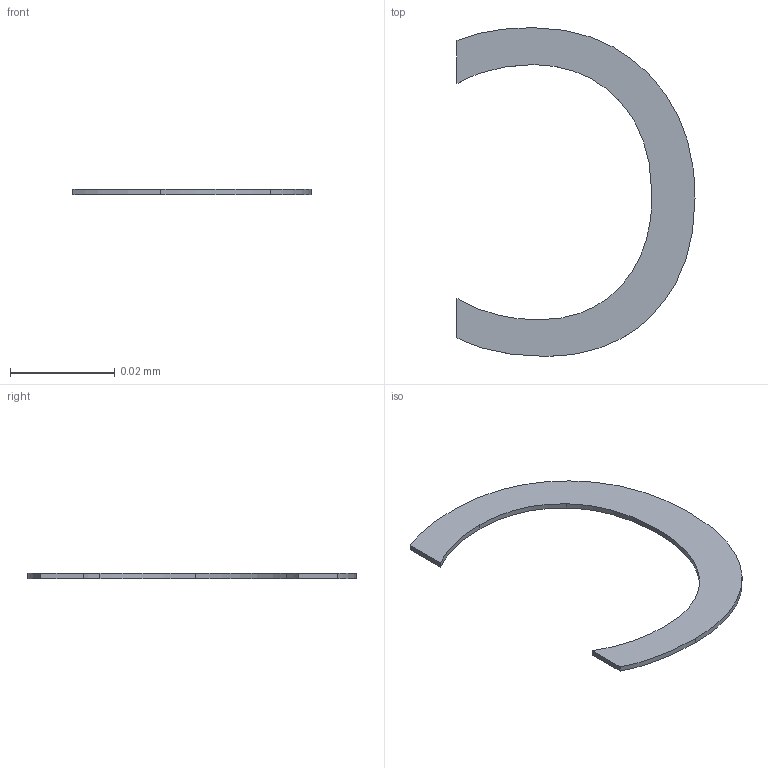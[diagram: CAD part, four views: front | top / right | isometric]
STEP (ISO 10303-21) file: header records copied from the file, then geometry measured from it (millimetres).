
FILE_DESCRIPTION(/* description */ ('STEP AP242 Edition 2','CAx-IF Rec.Pracs.---Representation and Presentation of Product Manufacturing Information (PMI)---4.0---2014-10-13','CAx-IF Rec.Pracs.---3D Tessellated Geometry---0.4---2014-09-14','2;1','CAx-IF Rec.Pracs.---User Defined Attributes---1.5---2016-08-15'),/* implementation_level */ '2;1');
FILE_NAME(/* name */ 'Assembly 1 - SOT-23-6_L2.9-W1.6-P0.95-LS2.8-BL~SOT-23-6_L2.9-W1.6-H1.5-LS2.8-P0.95~nxQB (3)',/* time_stamp */ '2026-04-02T09:55:25Z',/* author */ (''),/* organization */ (''),/* preprocessor_version */ 'ST-DEVELOPER v20',/* originating_system */ 'ONSHAPE BY PTC INC, 1.212',/* authorisation */ ' ');
FILE_SCHEMA (('AP242_MANAGED_MODEL_BASED_3D_ENGINEERING_MIM_LF { 1 0 10303 442 3 1 4 }'));
Length unit declared in the file: metre
Products named in the file (1): SOT-23-6_L2.9-W1.6-P0.95-LS2.8-BL~SOT-23-6_L2.9-W1.6-H1.5-LS2.8-P0.95
~nxQB
Bounding box: 0.05 x 0.06 x 0 mm (x, y, z)
Volume: 0 mm3; surface area: 0 mm2
Topology: 1 solids, 1 shells, 16 faces, 42 edges, 28 vertices
Faces by surface type: bspline 12, plane 4
Entity records: 693 total; most frequent: CARTESIAN_POINT 243, ORIENTED_EDGE 84, EDGE_CURVE 42, VERTEX_POINT 28, DIRECTION 28, B_SPLINE_CURVE_WITH_KNOTS 24, LINE 18, VECTOR 18
